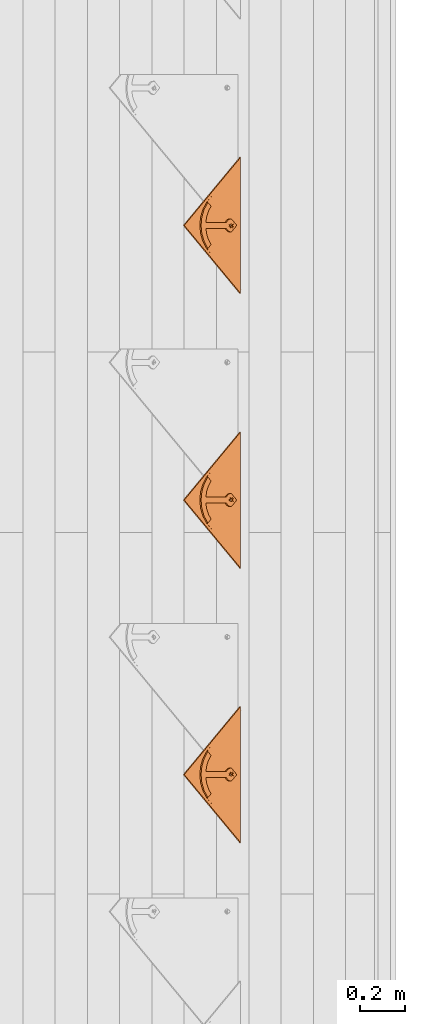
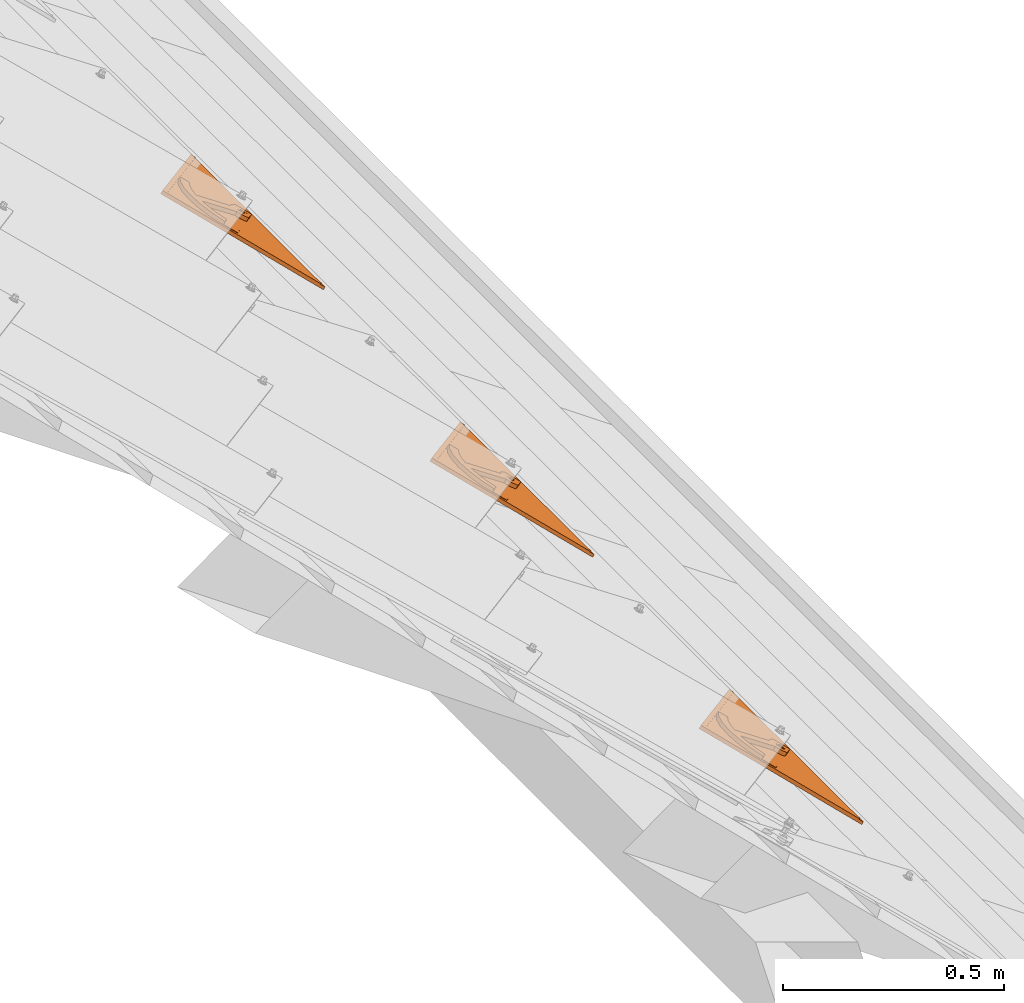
# One storey, part 116 of 133: 3 proxies.
"""IFC2X3 building model written with IfcOpenShell, lengths in millimetres."""

from ifc_helpers import new_model, entity, si_unit, converted_unit, derived_unit, direction, frame, origin, place, context, subcontext, project, spatial, faceted_brep, source, transform, mapped, material, material_list, type_object, type_shapes, element, save


model = new_model("IFC2X3")

# Units and contexts
model_context = context("Model", 3, precision=0.01, world=origin(), true_north=direction((6.12303176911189e-17, 1.0)))
body_context = subcontext(model_context, "Body", "Model", "MODEL_VIEW")
ifc_project = project(units=[si_unit("LENGTHUNIT", "METRE", prefix="MILLI"), si_unit("AREAUNIT", "SQUARE_METRE"), si_unit("VOLUMEUNIT", "CUBIC_METRE"), converted_unit("PLANEANGLEUNIT", "DEGREE", entity("IfcRatioMeasure", 0.0174532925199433), si_unit("PLANEANGLEUNIT", "RADIAN"), dimensions=[0, 0, 0, 0, 0, 0, 0]), si_unit("MASSUNIT", "GRAM", prefix="KILO"), derived_unit("MASSDENSITYUNIT", [(si_unit("MASSUNIT", "GRAM", prefix="KILO"), 1), (si_unit("LENGTHUNIT", "METRE"), -3)]), si_unit("TIMEUNIT", "SECOND"), si_unit("FREQUENCYUNIT", "HERTZ"), si_unit("THERMODYNAMICTEMPERATUREUNIT", "DEGREE_CELSIUS"), derived_unit("THERMALTRANSMITTANCEUNIT", [(si_unit("MASSUNIT", "GRAM", prefix="KILO"), 1), (si_unit("THERMODYNAMICTEMPERATUREUNIT", "KELVIN"), -1), (si_unit("TIMEUNIT", "SECOND"), -3)]), derived_unit("VOLUMETRICFLOWRATEUNIT", [(si_unit("LENGTHUNIT", "METRE"), 3), (si_unit("TIMEUNIT", "SECOND"), -1)]), si_unit("ELECTRICCURRENTUNIT", "AMPERE"), si_unit("ELECTRICVOLTAGEUNIT", "VOLT"), si_unit("POWERUNIT", "WATT"), si_unit("FORCEUNIT", "NEWTON", prefix="KILO"), si_unit("ILLUMINANCEUNIT", "LUX"), si_unit("LUMINOUSFLUXUNIT", "LUMEN"), si_unit("LUMINOUSINTENSITYUNIT", "CANDELA"), derived_unit("USERDEFINED", [(si_unit("MASSUNIT", "GRAM", prefix="KILO"), -1), (si_unit("LENGTHUNIT", "METRE"), -2), (si_unit("TIMEUNIT", "SECOND"), 3), (si_unit("LUMINOUSFLUXUNIT", "LUMEN"), 1)]), derived_unit("LINEARVELOCITYUNIT", [(si_unit("LENGTHUNIT", "METRE"), 1), (si_unit("TIMEUNIT", "SECOND"), -1)]), si_unit("PRESSUREUNIT", "PASCAL"), derived_unit("USERDEFINED", [(si_unit("LENGTHUNIT", "METRE"), -2), (si_unit("MASSUNIT", "GRAM", prefix="KILO"), 1), (si_unit("TIMEUNIT", "SECOND"), -2)])], contexts=[model_context])

# Site, building, storey
site_placement = place(None, origin())
site = spatial("IfcSite", under=ifc_project, at=site_placement, Name="Default", CompositionType="ELEMENT")
building_placement = place(site_placement, origin())
building = spatial("IfcBuilding", under=site, at=building_placement, CompositionType="ELEMENT")
storey_placement = place(building_placement, origin())
storey = spatial("IfcBuildingStorey", under=building, at=storey_placement, Name="Level 1", CompositionType="ELEMENT", Elevation=0.0)

# Proxies
ifc_material_1 = material(Name="Rubber - Sunstyle - Black")
ifc_material_2 = material(Name="Glass - Sunstyle - Tainted Black")
ifc_material_list_1 = material_list([ifc_material_1, ifc_material_2])
ifc_material_list_2 = material_list([ifc_material_1, ifc_material_2])
building_element_proxy_type = type_object("IfcBuildingElementProxyType", Name="Shingle Bottom Small - Black", PredefinedType="NOTDEFINED", material=ifc_material_list_2)
shared_shape = source(origin(), body_context, "Body", "Brep", [
    faceted_brep([(302.08842791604, 44.9093317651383, 22.0558382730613), (302.08842791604, 49.408700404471, 21.980485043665), (293.484723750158, 48.4726030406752, 21.9961623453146), (310.692132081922, 48.4726030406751, 21.9961623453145), (308.728656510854, 53.2419006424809, 21.9162884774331), (314.255903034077, 57.0751008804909, 21.8520919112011), (308.728656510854, 60.9083011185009, 21.7878953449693), (310.692132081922, 65.6775987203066, 21.7080214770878), (302.08842791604, 64.7415013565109, 21.7236987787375), (302.08842791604, 69.2408699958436, 21.6483455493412), (293.484723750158, 65.6775987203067, 21.708021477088), (295.448199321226, 60.908301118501, 21.7878953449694), (289.920952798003, 57.0751008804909, 21.8520919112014), (295.448199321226, 53.2419006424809, 21.9162884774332), (295.448199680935, 60.6403782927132, 5.79013870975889), (302.08842791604, 64.473578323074, 5.72594214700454), (295.448199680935, 52.9739782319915, 5.91853183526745), (302.08842791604, 49.1407782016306, 5.98272839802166), (308.728656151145, 52.9739782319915, 5.91853183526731), (308.728656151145, 60.6403782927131, 5.79013870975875), (293.484723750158, 48.2046804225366, 5.99840570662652), (302.08842791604, 44.6414091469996, 6.05808163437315), (289.920952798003, 56.8071782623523, 5.85433527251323), (293.484723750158, 65.4096761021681, 5.71026483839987), (302.08842791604, 68.972947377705, 5.65058891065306), (310.692132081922, 65.409676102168, 5.71026483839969), (314.255903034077, 56.8071782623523, 5.85433527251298), (310.692132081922, 48.2046804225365, 5.99840570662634)], [[[0, 1, 2]], [[1, 0, 3]], [[3, 4, 1]], [[4, 3, 5]], [[6, 4, 5]], [[5, 7, 6]], [[7, 8, 6]], [[8, 7, 9]], [[8, 9, 10]], [[10, 11, 8]], [[12, 11, 10]], [[2, 13, 12]], [[12, 13, 11]], [[13, 2, 1]], [[8, 11, 14, 15]], [[11, 13, 16, 14]], [[13, 1, 17, 16]], [[1, 4, 18, 17]], [[4, 6, 19, 18]], [[6, 8, 15, 19]], [[20, 17, 21]], [[17, 20, 16]], [[22, 16, 20]], [[14, 16, 22]], [[23, 14, 22]], [[15, 14, 23]], [[23, 24, 15]], [[24, 25, 15]], [[19, 15, 25]], [[19, 25, 26]], [[26, 18, 19]], [[26, 27, 18]], [[17, 18, 27]], [[27, 21, 17]], [[24, 23, 10, 9]], [[10, 23, 22, 12]], [[20, 21, 0, 2]], [[20, 2, 12, 22]], [[21, 27, 3, 0]], [[3, 27, 26, 5]], [[25, 24, 9, 7]], [[25, 7, 5, 26]]]),
    faceted_brep([(587.35835892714, 0.0, 12.5593198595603), (595.843045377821, 8.4846864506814, 12.4172224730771), (595.843045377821, 8.50980419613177, 13.9170121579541), (587.35835892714, 0.0251177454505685, 14.0591095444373), (302.088750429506, 285.189618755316, 7.7831033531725), (16.8191419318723, 0.0, 12.5593198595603), (8.33445548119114, 8.48468645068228, 12.4172224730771), (302.088750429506, 302.156612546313, 7.49894842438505), (302.088750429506, 302.181730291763, 8.9987381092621), (8.33445548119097, 8.50980419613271, 13.9170121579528), (16.8191419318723, 0.0251177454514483, 14.0591095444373), (302.088750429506, 285.214736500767, 9.28289303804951)], [[[0, 1, 2, 3]], [[1, 0, 4, 5, 6, 7]], [[2, 1, 7, 8]], [[3, 2, 8, 9, 10, 11]], [[0, 3, 11, 4]], [[5, 10, 9, 6]], [[8, 7, 6, 9]], [[4, 11, 10, 5]]]),
    faceted_brep([(302.088750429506, 302.156612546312, 7.49894842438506), (305.194256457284, 68.3255429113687, 11.4150370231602), (308.088427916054, 67.1269059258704, 11.4351112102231), (302.088427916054, 68.7343756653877, 11.4081900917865), (310.573709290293, 65.2201498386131, 11.4670446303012), (298.982599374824, 68.3255429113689, 11.4150370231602), (296.088427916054, 67.1269059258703, 11.4351112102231), (293.603146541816, 65.2201498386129, 11.4670446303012), (312.480732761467, 62.7352169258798, 11.5086610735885), (604.177500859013, 0.152567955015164, 12.5567647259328), (291.696123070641, 62.7352169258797, 11.5086610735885), (0.0, 0.152567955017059, 12.5567647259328), (290.497318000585, 59.8414512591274, 11.5571244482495), (290.088427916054, 56.7360581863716, 11.6091320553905), (290.497318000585, 53.6306651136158, 11.6611396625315), (291.696123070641, 50.7368994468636, 11.7096030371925), (293.603146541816, 48.2519665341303, 11.7512194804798), (296.088427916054, 46.3452104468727, 11.7831529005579), (298.982599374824, 45.1465734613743, 11.8032270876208), (302.088427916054, 44.7377407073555, 11.8100740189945), (313.679537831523, 59.8414512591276, 11.5571244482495), (314.088427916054, 56.7360581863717, 11.6091320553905), (313.679537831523, 53.6306651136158, 11.6611396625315), (312.480732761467, 50.7368994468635, 11.7096030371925), (310.573709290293, 48.2519665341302, 11.7512194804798), (308.088427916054, 46.3452104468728, 11.7831529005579), (305.194256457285, 45.1465734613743, 11.8032270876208), (0.0, 0.0269792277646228, 5.0578163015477), (290.088427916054, 56.6104694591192, 4.11018363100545), (290.497318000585, 53.5050763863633, 4.16219123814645), (290.497318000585, 59.7158625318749, 4.05817602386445), (291.696123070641, 50.6113107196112, 4.21065461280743), (291.696123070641, 62.6096281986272, 4.00971264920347), (302.088750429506, 302.031023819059, 0.0), (293.603146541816, 48.1263778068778, 4.25227105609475), (296.088427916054, 46.2196217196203, 4.28420447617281), (298.982599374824, 45.0209847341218, 4.30427866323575), (302.088427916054, 44.612151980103, 4.31112559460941), (604.177500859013, 0.0269792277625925, 5.05781630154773), (293.603146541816, 65.0945611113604, 3.96809620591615), (296.088427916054, 67.0013171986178, 3.93616278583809), (298.982599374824, 68.1999541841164, 3.91608859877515), (302.088427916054, 68.6087869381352, 3.90924166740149), (305.194256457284, 68.1999541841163, 3.91608859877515), (308.088427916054, 67.0013171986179, 3.93616278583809), (310.573709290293, 65.0945611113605, 3.96809620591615), (312.480732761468, 62.6096281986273, 4.00971264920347), (305.194256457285, 45.0209847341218, 4.30427866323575), (308.088427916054, 46.2196217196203, 4.28420447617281), (313.679537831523, 59.7158625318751, 4.05817602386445), (314.088427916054, 56.6104694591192, 4.11018363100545), (313.679537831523, 53.5050763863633, 4.16219123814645), (312.480732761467, 50.611310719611, 4.21065461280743), (310.573709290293, 48.1263778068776, 4.25227105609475)], [[[0, 1, 2]], [[1, 0, 3]], [[0, 2, 4]], [[5, 3, 0]], [[6, 5, 0]], [[0, 7, 6]], [[8, 0, 4]], [[0, 8, 9]], [[7, 0, 10]], [[0, 11, 10]], [[12, 10, 11]], [[11, 13, 12]], [[13, 11, 14]], [[15, 14, 11]], [[11, 16, 15]], [[17, 16, 11]], [[17, 11, 18]], [[19, 18, 11]], [[19, 11, 9]], [[9, 8, 20]], [[20, 21, 9]], [[21, 22, 9]], [[22, 23, 9]], [[9, 23, 24]], [[24, 25, 9]], [[25, 26, 9]], [[9, 26, 19]], [[27, 28, 29]], [[28, 27, 30]], [[27, 29, 31]], [[32, 30, 27]], [[32, 27, 33]], [[31, 34, 27]], [[34, 35, 27]], [[35, 36, 27]], [[36, 37, 27]], [[27, 37, 38]], [[33, 39, 32]], [[40, 39, 33]], [[41, 40, 33]], [[42, 41, 33]], [[33, 43, 42]], [[43, 33, 44]], [[45, 44, 33]], [[33, 46, 45]], [[46, 33, 38]], [[38, 37, 47]], [[47, 48, 38]], [[49, 46, 38]], [[38, 50, 49]], [[50, 38, 51]], [[52, 51, 38]], [[53, 52, 38]], [[53, 38, 48]], [[11, 0, 33, 27]], [[0, 9, 38, 33]], [[13, 28, 30, 12]], [[12, 30, 32, 10]], [[6, 7, 39, 40]], [[39, 7, 10, 32]], [[5, 6, 40, 41]], [[5, 41, 42, 3]], [[3, 42, 43, 1]], [[1, 43, 44, 2]], [[8, 4, 45, 46]], [[45, 4, 2, 44]], [[20, 8, 46, 49]], [[20, 49, 50, 21]], [[21, 50, 51, 22]], [[22, 51, 52, 23]], [[25, 24, 53, 48]], [[53, 24, 23, 52]], [[26, 25, 48, 47]], [[26, 47, 37, 19]], [[19, 37, 36, 18]], [[18, 36, 35, 17]], [[15, 16, 34, 31]], [[34, 16, 17, 35]], [[14, 15, 31, 29]], [[14, 29, 28, 13]], [[9, 11, 27, 38]]]),
    faceted_brep([(190.819384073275, 138.646056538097, 12.7376939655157), (217.144031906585, 164.967013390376, 12.2968834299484), (200.060856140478, 182.04779392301, 12.0108228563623), (193.80845410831, 176.686146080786, 12.100617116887), (187.837458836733, 171.012871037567, 12.1956303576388), (173.141714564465, 156.321247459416, 12.4416784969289), (431.035141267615, 156.321247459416, 12.4416784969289), (416.339396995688, 171.012871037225, 12.1956303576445), (410.36840172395, 176.686146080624, 12.1006171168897), (404.115999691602, 182.047793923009, 12.0108228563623), (387.031626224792, 164.968210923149, 12.2968633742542), (413.357471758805, 138.646056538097, 12.7376939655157), (296.088427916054, 67.294357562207, 21.4337091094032), (288.788427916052, 83.1076295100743, 21.1688761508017), (283.384321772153, 79.569581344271, 21.2281296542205), (293.603146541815, 65.3876014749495, 21.4656425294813), (298.982599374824, 68.4929945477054, 21.4136349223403), (302.088427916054, 68.9018273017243, 21.4067879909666), (315.388427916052, 83.107629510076, 21.1688761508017), (305.194256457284, 68.4929945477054, 21.4136349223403), (308.088427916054, 67.2943575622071, 21.4337091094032), (320.792534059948, 79.5695813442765, 21.2281296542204), (310.573709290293, 65.3876014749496, 21.4656425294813), (325.293078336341, 74.9365758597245, 21.3057209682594), (312.480732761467, 62.9026685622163, 21.5072589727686), (328.672647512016, 69.4324252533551, 21.3979017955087), (313.679537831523, 60.0089028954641, 21.5557223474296), (330.767980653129, 63.323025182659, 21.500219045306), (314.088427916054, 56.9035098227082, 21.6077299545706), (331.477855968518, 56.9035098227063, 21.6077299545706), (313.679537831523, 53.7981167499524, 21.6597375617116), (312.480732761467, 50.9043510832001, 21.7082009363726), (310.573709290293, 48.4194181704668, 21.7498173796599), (302.08842791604, 27.5182024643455, 22.0998607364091), (308.088427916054, 46.5126620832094, 21.7817507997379), (305.194256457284, 45.314025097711, 21.8018249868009), (302.088427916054, 44.9051923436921, 21.8086719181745), (298.982599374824, 45.314025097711, 21.8018249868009), (296.088427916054, 46.5126620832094, 21.7817507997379), (293.603146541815, 48.4194181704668, 21.7498173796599), (272.69899986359, 56.903509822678, 21.6077299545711), (291.696123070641, 50.9043510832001, 21.7082009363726), (290.497318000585, 53.7981167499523, 21.6597375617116), (290.088427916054, 56.9035098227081, 21.6077299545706), (273.408875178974, 63.3230251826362, 21.5002190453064), (290.497318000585, 60.008902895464, 21.5557223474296), (275.504208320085, 69.4324252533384, 21.397901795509), (291.696123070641, 62.9026685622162, 21.5072589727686), (278.883777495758, 74.9365758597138, 21.3057209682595), (288.788427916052, 192.984512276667, 19.3287117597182), (315.388427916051, 192.984512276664, 19.3287117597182), (302.088427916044, 218.456125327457, 18.9021256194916), (338.579268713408, 214.282159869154, 18.9720291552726), (340.858170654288, 188.169632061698, 19.4093490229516), (373.184513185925, 201.975945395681, 19.1781276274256), (365.012761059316, 178.765998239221, 19.5668364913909), (404.115999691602, 182.173382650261, 19.5097712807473), (387.032823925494, 165.092602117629, 19.7958318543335), (265.59758711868, 214.28215986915, 18.9720291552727), (263.318685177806, 188.169632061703, 19.4093490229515), (230.992342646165, 201.975945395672, 19.1781276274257), (239.164094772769, 178.765998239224, 19.5668364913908), (200.06085614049, 182.173382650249, 19.5097712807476), (217.144031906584, 165.092602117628, 19.7958318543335), (302.08842791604, 27.3507508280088, 12.1012628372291), (302.088427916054, 44.7377407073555, 11.8100740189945), (305.194256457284, 45.1465734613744, 11.8032270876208), (298.982599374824, 45.1465734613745, 11.8032270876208), (308.088427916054, 46.3452104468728, 11.7831529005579), (310.573709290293, 48.2519665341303, 11.7512194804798), (331.477855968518, 56.7360581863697, 11.6091320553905), (296.088427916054, 46.3452104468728, 11.7831529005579), (293.603146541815, 48.2519665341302, 11.7512194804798), (272.69899986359, 56.7360581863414, 11.609132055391), (291.696123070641, 50.7368994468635, 11.7096030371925), (290.497318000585, 53.6306651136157, 11.6611396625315), (290.088427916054, 56.7360581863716, 11.6091320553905), (273.408875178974, 63.1555735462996, 11.5016211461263), (290.497318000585, 59.8414512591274, 11.5571244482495), (275.504208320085, 69.2649736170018, 11.3993038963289), (291.696123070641, 62.7352169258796, 11.5086610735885), (278.883777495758, 74.7691242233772, 11.3071230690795), (293.603146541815, 65.2201498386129, 11.4670446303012), (283.384321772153, 79.4021297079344, 11.2295317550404), (296.088427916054, 67.1269059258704, 11.4351112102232), (288.788427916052, 82.9401778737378, 11.1702782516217), (298.982599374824, 68.3255429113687, 11.4150370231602), (302.088427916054, 68.7343756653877, 11.4081900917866), (315.388427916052, 82.9401778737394, 11.1702782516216), (288.788427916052, 192.81706064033, 9.33011386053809), (315.388427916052, 192.817060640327, 9.33011386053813), (302.088427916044, 218.28867369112, 8.90352772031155), (265.59758711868, 214.114708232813, 8.97343125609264), (263.318685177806, 188.002180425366, 9.41075112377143), (230.992342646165, 201.808493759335, 9.17952972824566), (239.164094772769, 178.598546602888, 9.56823859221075), (200.06085614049, 182.005931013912, 9.51117338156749), (217.145229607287, 164.926348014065, 9.79721389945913), (193.80845410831, 176.644283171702, 9.60096764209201), (187.837458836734, 170.971008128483, 9.69598088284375), (190.819384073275, 138.604193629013, 10.2380444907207), (173.141714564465, 156.279384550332, 9.94202902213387), (338.579268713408, 214.114708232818, 8.97343125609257), (340.858170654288, 188.002180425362, 9.41075112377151), (373.184513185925, 201.808493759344, 9.17952972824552), (365.012761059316, 178.598546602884, 9.5682385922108), (404.115999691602, 182.005931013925, 9.51117338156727), (387.032823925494, 164.925150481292, 9.79723395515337), (410.36840172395, 176.64428317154, 9.60096764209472), (416.339396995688, 170.971008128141, 9.69598088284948), (413.357471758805, 138.604193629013, 10.2380444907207), (431.035141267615, 156.279384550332, 9.94202902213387), (305.194256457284, 68.3255429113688, 11.4150370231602), (308.088427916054, 67.1269059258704, 11.4351112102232), (320.792534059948, 79.4021297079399, 11.2295317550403), (310.573709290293, 65.220149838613, 11.4670446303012), (325.293078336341, 74.7691242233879, 11.3071230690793), (312.480732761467, 62.7352169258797, 11.5086610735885), (328.672647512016, 69.2649736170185, 11.3993038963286), (313.679537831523, 59.8414512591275, 11.5571244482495), (330.767980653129, 63.1555735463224, 11.5016211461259), (314.088427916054, 56.7360581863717, 11.6091320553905), (312.480732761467, 50.7368994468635, 11.7096030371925), (313.679537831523, 53.6306651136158, 11.6611396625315)], [[[0, 1, 2, 3, 4, 5]], [[6, 7, 8, 9, 10, 11]], [[12, 13, 14]], [[12, 14, 15]], [[16, 13, 12]], [[17, 13, 16]], [[18, 13, 17]], [[17, 19, 18]], [[19, 20, 18]], [[20, 21, 18]], [[21, 20, 22]], [[21, 22, 23]], [[24, 23, 22]], [[23, 24, 25]], [[24, 26, 25]], [[27, 25, 26]], [[26, 28, 27]], [[29, 27, 28]], [[28, 30, 29]], [[30, 31, 29]], [[29, 31, 32]], [[32, 33, 29]], [[32, 34, 33]], [[35, 33, 34]], [[36, 33, 35]], [[33, 36, 37]], [[38, 33, 37]], [[38, 39, 33]], [[40, 33, 39]], [[41, 40, 39]], [[41, 42, 40]], [[42, 43, 40]], [[43, 44, 40]], [[45, 44, 43]], [[45, 46, 44]], [[45, 47, 46]], [[48, 46, 47]], [[48, 47, 15]], [[48, 15, 14]], [[18, 49, 13]], [[50, 49, 18]], [[51, 49, 50]], [[50, 52, 51]], [[50, 53, 52]], [[52, 53, 54]], [[53, 55, 54]], [[56, 54, 55]], [[57, 56, 55]], [[58, 49, 51]], [[49, 58, 59]], [[60, 59, 58]], [[60, 61, 59]], [[61, 60, 62]], [[62, 63, 61]], [[64, 65, 66]], [[65, 64, 67]], [[64, 66, 68]], [[68, 69, 64]], [[64, 69, 70]], [[71, 67, 64]], [[71, 64, 72]], [[72, 64, 73]], [[73, 74, 72]], [[74, 73, 75]], [[75, 73, 76]], [[77, 76, 73]], [[76, 77, 78]], [[78, 77, 79]], [[80, 78, 79]], [[81, 80, 79]], [[82, 80, 81]], [[83, 82, 81]], [[83, 84, 82]], [[85, 84, 83]], [[85, 86, 84]], [[87, 86, 85]], [[88, 87, 85]], [[89, 88, 85]], [[88, 89, 90]], [[89, 91, 90]], [[91, 89, 92]], [[93, 92, 89]], [[92, 93, 94]], [[95, 94, 93]], [[96, 94, 95]], [[95, 97, 96]], [[97, 98, 96]], [[98, 97, 99]], [[97, 100, 99]], [[99, 100, 101]], [[90, 91, 102]], [[103, 90, 102]], [[103, 102, 104]], [[105, 103, 104]], [[106, 105, 104]], [[107, 105, 106]], [[106, 108, 107]], [[109, 107, 108]], [[110, 107, 109]], [[109, 111, 110]], [[112, 87, 88]], [[113, 112, 88]], [[114, 113, 88]], [[115, 113, 114]], [[115, 114, 116]], [[116, 117, 115]], [[117, 116, 118]], [[118, 119, 117]], [[120, 119, 118]], [[121, 120, 70]], [[120, 121, 119]], [[70, 69, 122]], [[122, 123, 70]], [[123, 121, 70]], [[13, 49, 89, 85]], [[14, 13, 85, 83]], [[48, 14, 83, 81]], [[81, 79, 46, 48]], [[44, 46, 79, 77]], [[40, 44, 77, 73]], [[33, 40, 73, 64]], [[0, 5, 101, 100]], [[29, 33, 64, 70]], [[6, 11, 110, 111]], [[27, 29, 70, 120]], [[25, 27, 120, 118]], [[118, 116, 23, 25]], [[21, 23, 116, 114]], [[18, 21, 114, 88]], [[50, 18, 88, 90]], [[9, 106, 104, 54, 56]], [[52, 54, 104, 102]], [[51, 52, 102, 91]], [[58, 51, 91, 92]], [[94, 96, 2, 62, 60]], [[60, 58, 92, 94]], [[43, 76, 78, 45]], [[45, 78, 80, 47]], [[12, 15, 82, 84]], [[80, 82, 15, 47]], [[16, 12, 84, 86]], [[87, 17, 16, 86]], [[19, 112, 113, 20]], [[20, 113, 115, 22]], [[26, 24, 117, 119]], [[115, 117, 24, 22]], [[28, 26, 119, 121]], [[19, 17, 87, 112]], [[28, 121, 123, 30]], [[30, 123, 122, 31]], [[34, 32, 69, 68]], [[122, 69, 32, 31]], [[35, 34, 68, 66]], [[65, 36, 35, 66]], [[37, 67, 71, 38]], [[38, 71, 72, 39]], [[42, 41, 74, 75]], [[72, 74, 41, 39]], [[43, 42, 75, 76]], [[37, 36, 65, 67]], [[7, 6, 111, 109]], [[7, 109, 108, 8]], [[108, 106, 9, 8]], [[11, 10, 107, 110]], [[1, 0, 100, 97]], [[2, 96, 98, 3]], [[98, 99, 4, 3]], [[5, 4, 99, 101]], [[63, 62, 2, 1]], [[56, 57, 10]], [[10, 9, 56]], [[1, 95, 61, 63]], [[1, 97, 95]], [[93, 89, 49, 59]], [[95, 93, 59, 61]], [[90, 103, 53, 50]], [[103, 105, 55, 53]], [[10, 57, 55]], [[107, 10, 105]], [[55, 105, 10]]]),
])
type_shapes(building_element_proxy_type, [shared_shape])
proxy_1_placement = place(storey_placement, frame((4462.89353187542, -686.527902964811, 548.443706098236), z_axis=(0.573576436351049, 0.0, 0.81915204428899), x_axis=(0.0, 1.0, 0.0)))
element("IfcBuildingElementProxy", 1, at=proxy_1_placement, inside=storey, type_object=building_element_proxy_type, material=ifc_material_list_1, Name="Roofing_Panels_SunStyle_Tile_Shingle-Bottom-Small:Shingle Bottom Small - Black", ObjectType="Roofing_Panels_SunStyle_Tile_Shingle-Bottom-Small:Shingle Bottom Small - Black", context=body_context, shape_type="MappedRepresentation", body=[
    mapped(shared_shape, transform((0.0, 0.0, 0.0), scale=1.0)),
])
ifc_material_list_3 = material_list([ifc_material_1, ifc_material_2])
proxy_2_placement = place(storey_placement, frame((4462.89353187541, -1902.05308792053, 548.443706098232), z_axis=(0.573576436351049, 0.0, 0.81915204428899), x_axis=(0.0, 1.0, 0.0)))
element("IfcBuildingElementProxy", 2, at=proxy_2_placement, inside=storey, type_object=building_element_proxy_type, material=ifc_material_list_3, Name="Roofing_Panels_SunStyle_Tile_Shingle-Bottom-Small:Shingle Bottom Small - Black", ObjectType="Roofing_Panels_SunStyle_Tile_Shingle-Bottom-Small:Shingle Bottom Small - Black", context=body_context, shape_type="MappedRepresentation", body=[
    mapped(shared_shape, transform((0.0, 0.0, 0.0), scale=1.0)),
])
ifc_material_list_4 = material_list([ifc_material_1, ifc_material_2])
proxy_3_placement = place(storey_placement, frame((4462.89353187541, -3117.05308792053, 548.443706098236), z_axis=(0.573576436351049, 0.0, 0.81915204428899), x_axis=(0.0, 1.0, 0.0)))
element("IfcBuildingElementProxy", 3, at=proxy_3_placement, inside=storey, type_object=building_element_proxy_type, material=ifc_material_list_4, Name="Roofing_Panels_SunStyle_Tile_Shingle-Bottom-Small:Shingle Bottom Small - Black", ObjectType="Roofing_Panels_SunStyle_Tile_Shingle-Bottom-Small:Shingle Bottom Small - Black", context=body_context, shape_type="MappedRepresentation", body=[
    mapped(shared_shape, transform((0.0, 0.0, 0.0), scale=1.0)),
])

save(model, "model.ifc")
